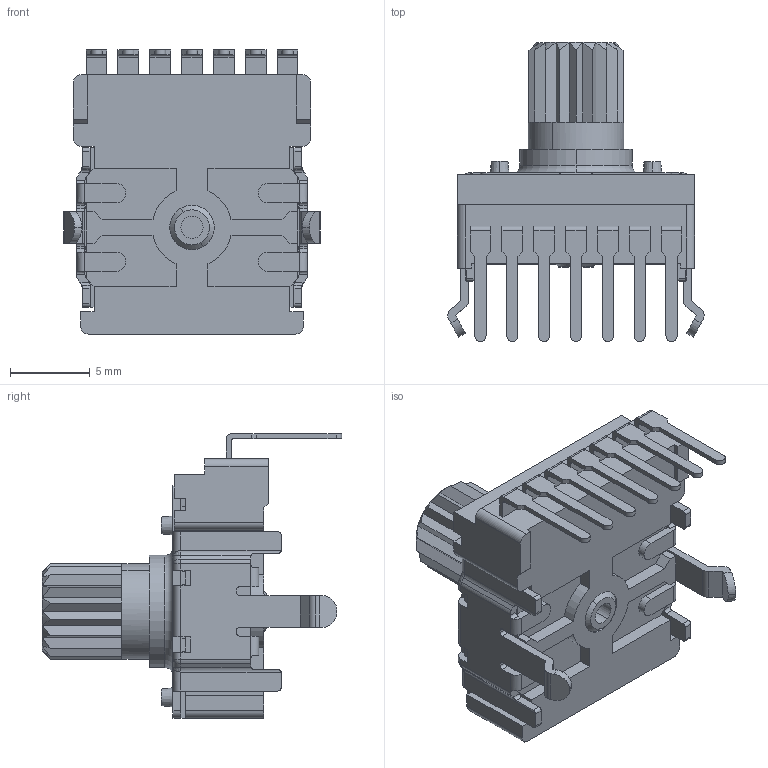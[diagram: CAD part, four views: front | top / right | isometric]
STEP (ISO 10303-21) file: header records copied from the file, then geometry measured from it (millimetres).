
FILE_DESCRIPTION (( 'STEP AP203' ), '1' );
FILE_NAME ('P140KH-Y15.STEP', '2026-09-15T19:17:55', ( '' ), ( '' ), 'SwSTEP 2.0', 'SolidWorks 2026', '' );
FILE_SCHEMA (( 'CONFIG_CONTROL_DESIGN' ));
Length unit declared in the file: millimetre
Products named in the file (7): spring_plate; KH-housing; KH bracket; V-terminal; Y15; Housing; P140KH-Y15
Assembly tree (12 placements, depth 3):
  P140KH-Y15
    KH-housing
      Housing
      V-terminal  x7
    Y15
    spring_plate
    KH bracket
Bounding box: 16.1 x 18.8 x 17.85 mm (x, y, z)
Volume: 1188.8 mm3; surface area: 2594.6 mm2
Topology: 11 solids, 11 shells, 662 faces, 1760 edges, 1114 vertices
Faces by surface type: plane 427, cylinder 189, cone 24, bspline 12, torus 6, sphere 4
Entity records: 18921 total; most frequent: CARTESIAN_POINT 3574, ORIENTED_EDGE 3072, DIRECTION 2958, EDGE_CURVE 1536, VECTOR 1066, LINE 1066, VERTEX_POINT 970, AXIS2_PLACEMENT_3D 946
